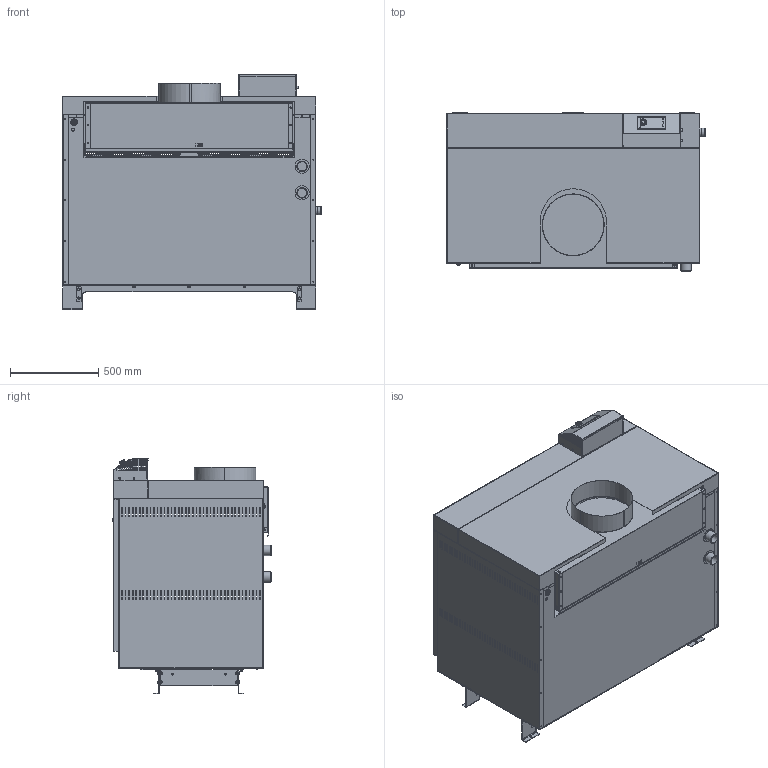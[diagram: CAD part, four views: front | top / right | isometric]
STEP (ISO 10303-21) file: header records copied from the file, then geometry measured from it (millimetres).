
FILE_DESCRIPTION(('STEP AP203'), '1');
FILE_NAME('TITAN V 250', '2025-12-03T09:23:59', (''), (''), 'ASCON STEP Converter 1.6', 'ASCON Math Kernel', '');
FILE_SCHEMA(('CONFIG_CONTROL_DESIGN'));
Length unit declared in the file: millimetre
Products named in the file (1): -03
Bounding box: 1461 x 895.63 x 1330.4 mm (x, y, z)
Volume: 15013831.6 mm3; surface area: 16949769.4 mm2
Topology: 20 solids, 21 shells, 4852 faces, 12769 edges, 8224 vertices
Faces by surface type: plane 3645, cylinder 803, bspline 210, torus 86, cone 80, sphere 26, extrusion 2
Full cylindrical faces by diameter (mm): 2.45 x22, 2.5 x6, 3 x16, 3.2 x2, 3.5 x8, 4 x32, 4.2 x8, 4.5 x30, 4.7 x1, 5 x6, 6 x11, 7 x6, 8 x30, 8.5 x19, 9 x20, 10 x14, 10.421 x1, 12 x1, 14 x3, 14.795 x1, 15 x1, 16 x14, 19.169 x1, 23.542 x1, 24.5 x2, 27.916 x1, 30.664 x1, 32 x2, 36 x1, 38 x1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
Entity records: 173210 total; most frequent: CARTESIAN_POINT 53597, ORIENTED_EDGE 24641, DIRECTION 22862, EDGE_CURVE 12322, VECTOR 9330, LINE 9328, VERTEX_POINT 8223, AXIS2_PLACEMENT_3D 6766
